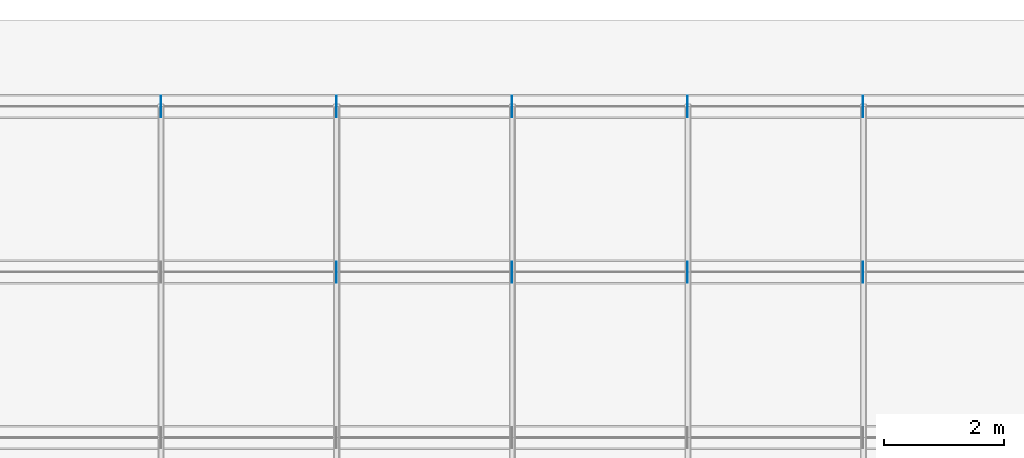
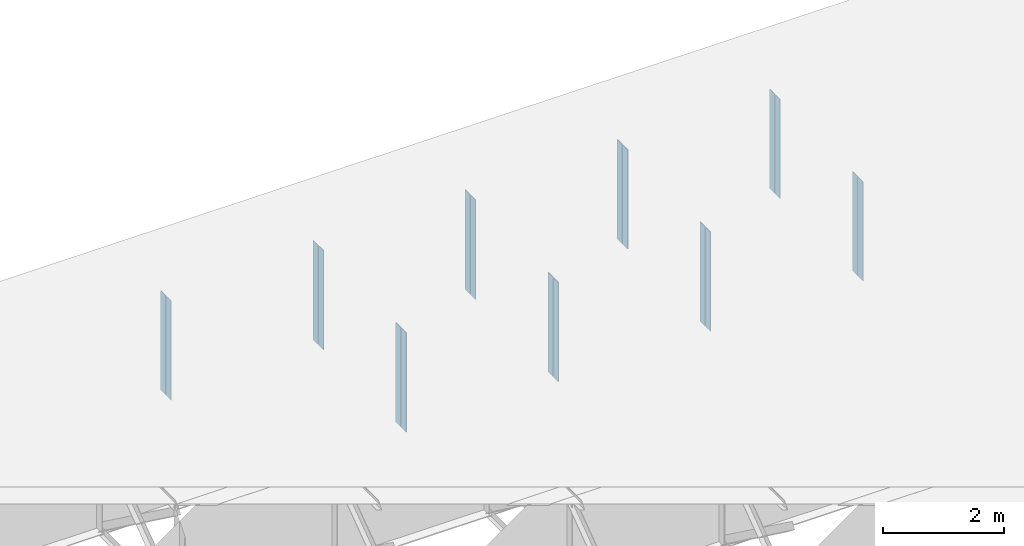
# One storey, part 16 of 17: 18 plates.
"""IFC4 building model written with IfcOpenShell, lengths in metres."""

from ifc_helpers import new_model, si_unit, frame, origin, origin_with_axes, origin_2d_with_axis, place, context, subcontext, project, spatial, rectangle, extrude, element, save


model = new_model("IFC4")

# Units and contexts
model_context = context("Model", 3, precision=1e-05, world=origin())
body_context = subcontext(model_context, "Body", "Model", "MODEL_VIEW")
ifc_project = project(units=[si_unit("LENGTHUNIT", "METRE"), si_unit("AREAUNIT", "SQUARE_METRE"), si_unit("VOLUMEUNIT", "CUBIC_METRE"), si_unit("PLANEANGLEUNIT", "RADIAN")], contexts=[model_context])

# Site, building, storey
site_placement = place(None, origin_with_axes())
site = spatial("IfcSite", under=ifc_project, at=site_placement, Name="Default Site")
building_placement = place(site_placement, origin_with_axes())
building = spatial("IfcBuilding", under=site, at=building_placement, Name="Bridge Structure")
storey_placement = place(building_placement, origin_with_axes())
storey = spatial("IfcBuildingStorey", under=building, at=storey_placement, Name="Superstructure")

# Plates
for number, where, z_axis, x_axis, name in (
    (1, (20.412, 2.841, -1.007), (0.0, 0.0, 1.0), (1.0, 0.0, 0.0), "Intermediate Stiffener 4"),
    (2, (20.412, 2.6590000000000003, -1.007), (0.0, 0.0, 1.0), (1.0, 0.0, 0.0), "Intermediate Stiffener 4"),
    (3, (23.328, 2.841, -1.007), (0.0, 0.0, 1.0), (1.0, 0.0, 0.0), "Intermediate Stiffener 4"),
    (4, (23.328, 2.6590000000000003, -1.007), (0.0, 0.0, 1.0), (1.0, 0.0, 0.0), "Intermediate Stiffener 4"),
    (5, (26.244, 2.841, -1.007), (0.0, 0.0, 1.0), (1.0, 0.0, 0.0), "Intermediate Stiffener 4"),
    (6, (26.244, 2.6590000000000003, -1.007), (0.0, 0.0, 1.0), (1.0, 0.0, 0.0), "Intermediate Stiffener 4"),
    (7, (29.16, 2.841, -1.007), (0.0, 0.0, 1.0), (1.0, 0.0, 0.0), "Intermediate Stiffener 4"),
    (8, (29.16, 2.6590000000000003, -1.007), (0.0, 0.0, 1.0), (1.0, 0.0, 0.0), "Intermediate Stiffener 4"),
    (9, (17.496, 5.591, -1.007), (0.0, 0.0, 1.0), (1.0, 0.0, 0.0), "Intermediate Stiffener 5"),
    (10, (17.496, 5.409, -1.007), (0.0, 0.0, 1.0), (1.0, 0.0, 0.0), "Intermediate Stiffener 5"),
    (11, (20.412, 5.591, -1.007), (0.0, 0.0, 1.0), (1.0, 0.0, 0.0), "Intermediate Stiffener 5"),
    (12, (20.412, 5.409, -1.007), (0.0, 0.0, 1.0), (1.0, 0.0, 0.0), "Intermediate Stiffener 5"),
    (13, (23.328, 5.591, -1.007), (0.0, 0.0, 1.0), (1.0, 0.0, 0.0), "Intermediate Stiffener 5"),
    (14, (23.328, 5.409, -1.007), (0.0, 0.0, 1.0), (1.0, 0.0, 0.0), "Intermediate Stiffener 5"),
    (15, (26.244, 5.591, -1.007), (0.0, 0.0, 1.0), (1.0, 0.0, 0.0), "Intermediate Stiffener 5"),
    (16, (26.244, 5.409, -1.007), (0.0, 0.0, 1.0), (1.0, 0.0, 0.0), "Intermediate Stiffener 5"),
    (17, (29.16, 5.591, -1.007), (0.0, 0.0, 1.0), (1.0, 0.0, 0.0), "Intermediate Stiffener 5"),
    (18, (29.16, 5.409, -1.007), (0.0, 0.0, 1.0), (1.0, 0.0, 0.0), "Intermediate Stiffener 5"),
):
    element("IfcPlate", number, at=place(storey_placement, frame(where, z_axis=z_axis, x_axis=x_axis)), inside=storey, Name=name, context=body_context, shape_type="SweptSolid", body=[
        extrude(rectangle(XDim=0.012, YDim=0.168, at=origin_2d_with_axis()), origin_with_axes(), (0.0, 0.0, 1.0), 2.014),
    ])

save(model, "model.ifc")
